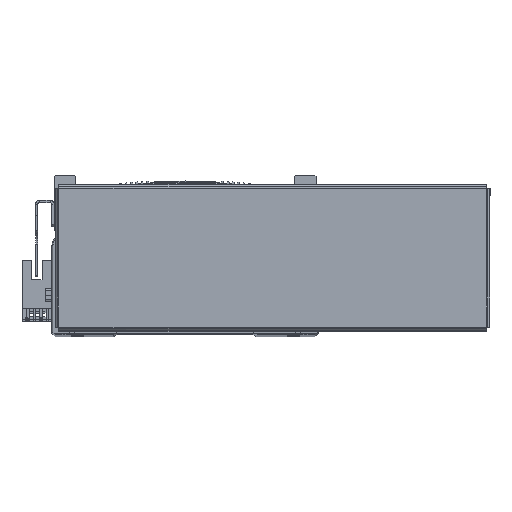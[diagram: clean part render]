
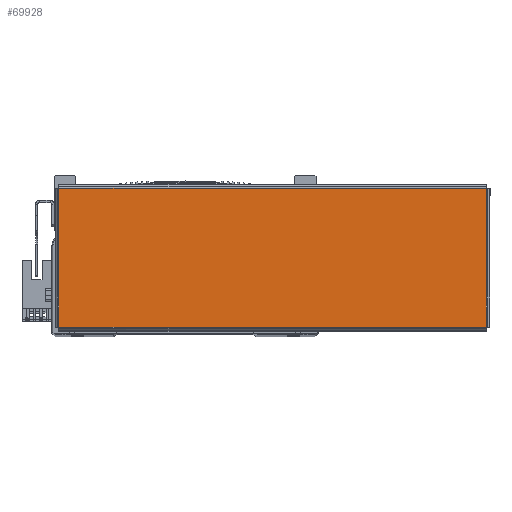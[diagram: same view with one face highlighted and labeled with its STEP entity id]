
A CAD part, top view. The second image highlights one B-rep face of the part: STEP entity #69928.
In plain terms, the highlighted planar face has unit normal (0, 0, 1) as drawn and (0, 0, -1) by its records, which use the part's own axes.
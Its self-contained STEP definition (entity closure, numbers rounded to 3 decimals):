
#3529 = CARTESIAN_POINT ( 'NONE',  ( -97.863, 31.763, -1. ) ) ;
#3662 = CARTESIAN_POINT ( 'NONE',  ( 97.863, 31.763, -1. ) ) ;
#3664 = CARTESIAN_POINT ( 'NONE',  ( -97.863, -31.763, -1. ) ) ;
#3665 = CARTESIAN_POINT ( 'NONE',  ( 97.863, -31.763, -1. ) ) ;
#21386 = CARTESIAN_POINT ( 'NONE',  ( -97.893, 31.763, -1. ) ) ;
#21401 = DIRECTION ( 'NONE',  ( 1., 0., 0. ) ) ;
#21531 = CARTESIAN_POINT ( 'NONE',  ( 97.863, 31.793, -1. ) ) ;
#21532 = DIRECTION ( 'NONE',  ( 0., -1., 0. ) ) ;
#24570 = PLANE ( 'NONE',  #30231 ) ;
#24574 = CARTESIAN_POINT ( 'NONE',  ( 0., 0., -1. ) ) ;
#24575 = DIRECTION ( 'NONE',  ( 0., 0., 1. ) ) ;
#24577 = DIRECTION ( 'NONE',  ( 1., 0., 0. ) ) ;
#30231 = AXIS2_PLACEMENT_3D ( 'NONE', #24574, #24575, #24577 ) ;
#31219 = VERTEX_POINT ( 'NONE', #3529 ) ;
#31297 = VERTEX_POINT ( 'NONE', #3665 ) ;
#31308 = VERTEX_POINT ( 'NONE', #3664 ) ;
#31315 = VERTEX_POINT ( 'NONE', #3662 ) ;
#34055 = EDGE_CURVE ( 'NONE', #31308, #31219, #41780, .T. ) ;
#34146 = EDGE_CURVE ( 'NONE', #31297, #31308, #41924, .T. ) ;
#34163 = EDGE_CURVE ( 'NONE', #31219, #31315, #41918, .T. ) ;
#34254 = EDGE_CURVE ( 'NONE', #31315, #31297, #41994, .T. ) ;
#35597 = FACE_OUTER_BOUND ( 'NONE', #72838, .T. ) ;
#41747 = VECTOR ( 'NONE', #45517, 1000. ) ;
#41780 = LINE ( 'NONE', #45495, #41747 ) ;
#41885 = VECTOR ( 'NONE', #21401, 1000. ) ;
#41918 = LINE ( 'NONE', #21386, #41885 ) ;
#41919 = VECTOR ( 'NONE', #44659, 1000. ) ;
#41924 = LINE ( 'NONE', #44647, #41919 ) ;
#41994 = LINE ( 'NONE', #21531, #41997 ) ;
#41997 = VECTOR ( 'NONE', #21532, 1000. ) ;
#44647 = CARTESIAN_POINT ( 'NONE',  ( 97.893, -31.763, -1. ) ) ;
#44659 = DIRECTION ( 'NONE',  ( -1., 0., 0. ) ) ;
#45495 = CARTESIAN_POINT ( 'NONE',  ( -97.863, -31.793, -1. ) ) ;
#45517 = DIRECTION ( 'NONE',  ( 0., 1., 0. ) ) ;
#46715 = ORIENTED_EDGE ( 'NONE', *, *, #34254, .T. ) ;
#46759 = ORIENTED_EDGE ( 'NONE', *, *, #34163, .T. ) ;
#46777 = ORIENTED_EDGE ( 'NONE', *, *, #34146, .T. ) ;
#46794 = ORIENTED_EDGE ( 'NONE', *, *, #34055, .T. ) ;
#69928 = ADVANCED_FACE ( 'NONE', ( #35597 ), #24570, .F. ) ;
#72838 = EDGE_LOOP ( 'NONE', ( #46715, #46777, #46794, #46759 ) ) ;
